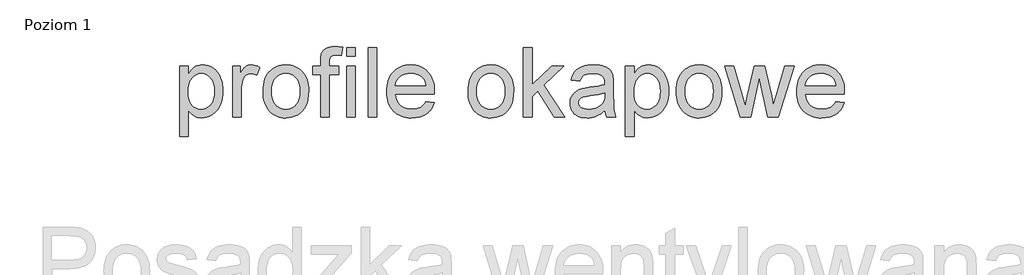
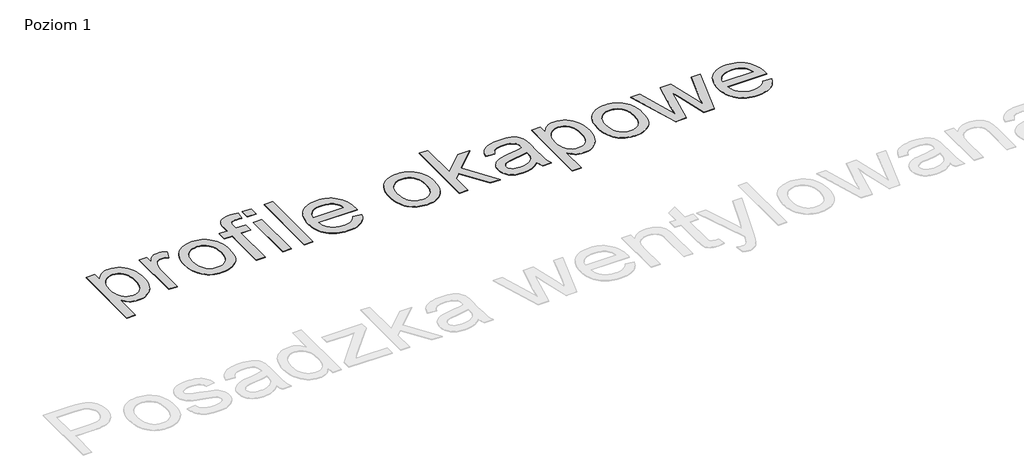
# One storey, part 3 of 4: 1 proxy.
"""IFC4 building model written with IfcOpenShell, lengths in millimetres."""

from ifc_helpers import new_model, si_unit, origin, origin_with_axes, place, context, project, spatial, polyline, outline, extrude, element, save

model = new_model("IFC4")

# Units and contexts
model_context = context("Model", 3, world=origin())
ifc_project = project(units=[si_unit("LENGTHUNIT", "METRE", prefix="MILLI")], contexts=[model_context])

# Site, building, storey
site = spatial("IfcSite", under=ifc_project)
building = spatial("IfcBuilding", under=site)
storey = spatial("IfcBuildingStorey", under=building, Name="Poziom 1", Elevation=0.0)

# Proxy
placement = place(None, origin())
element("IfcBuildingElementProxy", 1, Name="1500 mm Arial", ObjectType="1500 mm Arial", at=placement, inside=storey, context=model_context, shape_type="SweptSolid", body=[
    extrude(outline(polyline([(-54828.2671057, 16956.6028734), (-54828.2671057, 18486.9919733), (-54639.9115242, 18486.9919733), (-54639.9115242, 18302.3152117), (-54610.1130826, 18351.1170576), (-54578.475231, 18393.4119908), (-54544.9979694, 18429.2000111), (-54509.6812979, 18458.4811187), (-54471.5135409, 18481.2553134), (-54429.4830229, 18497.5225954), (-54383.589744, 18507.2829646), (-54333.8337042, 18510.536421), (-54268.1437754, 18505.9838813), (-54206.4545634, 18492.3262622), (-54148.766068, 18469.5635638), (-54095.0782893, 18437.6957859), (-54046.5638512, 18397.5506632), (-54004.3953775, 18349.9559301), (-53968.5728682, 18294.9115866), (-53939.0963234, 18232.4176326), (-53916.080706, 18164.6123824), (-53899.6409794, 18093.6341499), (-53889.7771434, 18019.4829353), (-53886.4891981, 17942.1587384), (-53890.2025069, 17859.4887563), (-53901.3424336, 17781.0724098), (-53919.9089781, 17706.9096988), (-53945.9021403, 17637.0006234), (-53978.9655346, 17573.1730973), (-54018.7427753, 17517.255034), (-54065.2338625, 17469.2464336), (-54118.438796, 17429.1472962), (-54175.7479131, 17397.5209409), (-54234.5515507, 17374.9306871), (-54294.849709, 17361.3765349), (-54356.6423879, 17356.8584841), (-54401.0986278, 17359.8820143), (-54443.2326125, 17368.9526047), (-54483.0443422, 17384.0702554), (-54520.5338167, 17405.2349665), (-54555.2411837, 17431.0211951), (-54586.7065906, 17460.0033985), (-54614.9300374, 17492.1815768), (-54639.9115242, 17527.5557299), (-54639.9115242, 16956.6028734), (-54828.2671057, 16956.6028734)]), holes=[polyline([(-54639.9115242, 17924.8682847), (-54634.8186578, 17834.0934024), (-54619.5400587, 17756.0104489), (-54608.0811094, 17721.7284454), (-54594.0757268, 17690.6194242), (-54577.5239111, 17662.6833852), (-54558.4256623, 17637.9203284), (-54515.5099283, 17597.3613385), (-54468.2485882, 17568.3906313), (-54416.641642, 17551.0082071), (-54360.6890898, 17545.2140656), (-54303.9317958, 17551.2151407), (-54277.1310176, 17558.7164845), (-54251.382152, 17569.2183658), (-54203.0401586, 17599.2237411), (-54158.9058155, 17641.2312664), (-54139.2040102, 17666.8852874), (-54122.1291123, 17695.83875), (-54107.6811217, 17728.0916543), (-54095.8600386, 17763.6440003), (-54086.6658628, 17802.4957879), (-54080.0985943, 17844.6470171), (-54074.8447796, 17938.8478005), (-54079.9721349, 18028.8409335), (-54095.3542008, 18106.7859313), (-54106.8907503, 18141.2403794), (-54120.9909774, 18172.6827937), (-54137.6548821, 18201.1131741), (-54156.8824645, 18226.5315207), (-54199.9016653, 18268.3780977), (-54246.9215828, 18298.2685098), (-54297.942217, 18316.202757), (-54352.9635679, 18322.1808395), (-54380.7932661, 18320.5914743), (-54407.8124742, 18315.8233787), (-54434.0211922, 18307.8765528), (-54459.4194203, 18296.7509965), (-54507.7844064, 18264.9636929), (-54552.9074323, 18220.4614678), (-54573.2990164, 18193.5917117), (-54590.9717225, 18163.8421295), (-54605.9255508, 18131.2127209), (-54618.1605012, 18095.7034862), (-54627.6765738, 18057.3144252), (-54634.4737684, 18016.0455379), (-54639.9115242, 17924.8682847)])]), origin_with_axes(), (0.0, 0.0, 1.0), 10.0),
    extrude(outline(polyline([(-53674.5891688, 17380.4029318), (-53674.5891688, 18486.9919733), (-53509.778035, 18486.9919733), (-53509.778035, 18323.2844854), (-53478.7379917, 18375.6156993), (-53448.8935648, 18418.1980402), (-53420.2447544, 18451.0315083), (-53392.7915605, 18474.1161035), (-53365.2923814, 18490.0499924), (-53336.5056153, 18501.4313416), (-53306.4312622, 18508.2601511), (-53275.0693221, 18510.536421), (-53228.3483087, 18506.9035863), (-53181.2594133, 18496.0050822), (-53133.8026359, 18477.8409087), (-53085.9779766, 18452.4110657), (-53148.8857977, 18283.55323), (-53181.9951773, 18300.4528091), (-53215.1045569, 18312.5239371), (-53248.2139364, 18319.7666139), (-53281.323316, 18322.1808395), (-53310.1905563, 18319.8585844), (-53337.563276, 18312.8918191), (-53363.4414751, 18301.2805436), (-53387.8251536, 18285.0247579), (-53409.7946065, 18264.6532925), (-53428.4301288, 18240.6949775), (-53443.7317206, 18213.1498131), (-53455.6993817, 18182.0177993), (-53469.0580967, 18130.6062905), (-53478.6000359, 18076.8035487), (-53484.3251995, 18020.6095739), (-53486.2335873, 17962.0243662), (-53486.2335873, 17380.4029318), (-53674.5891688, 17380.4029318)])), origin_with_axes(), (0.0, 0.0, 1.0), 10.0),
    extrude(outline(polyline([(-53015.3446335, 17933.6974525), (-53012.7982003, 18007.8314227), (-53005.1589007, 18077.0104823), (-52992.4267348, 18141.2346312), (-52974.6017025, 18200.5038695), (-52951.6838038, 18254.8181972), (-52923.6730388, 18304.1776143), (-52890.5694074, 18348.5821208), (-52852.3729096, 18388.0317166), (-52817.4126238, 18416.7437567), (-52780.5899353, 18441.6275248), (-52741.9048443, 18462.6830208), (-52701.3573506, 18479.9102449), (-52658.9474543, 18493.3091969), (-52614.6751555, 18502.879877), (-52568.540454, 18508.622285), (-52520.54335, 18510.536421), (-52467.3412905, 18508.2055437), (-52416.6281826, 18501.2129117), (-52368.4040264, 18489.558525), (-52322.6688218, 18473.2423837), (-52279.4225688, 18452.2644878), (-52238.6652675, 18426.6248371), (-52200.3969177, 18396.3234319), (-52164.6175196, 18361.3602719), (-52132.24103, 18322.2871803), (-52104.1814056, 18279.6559801), (-52080.4386465, 18233.4666711), (-52061.0127527, 18183.7192535), (-52045.9037242, 18130.4137272), (-52035.111561, 18073.5500923), (-52028.6362631, 18013.1283486), (-52026.4778304, 17949.1484963), (-52030.2946061, 17848.325837), (-52041.7449332, 17758.8615343), (-52060.8288117, 17680.7555882), (-52087.5462416, 17614.0079987), (-52121.5638299, 17556.3539923), (-52162.5481834, 17505.5287954), (-52210.4993022, 17461.532408), (-52265.4171863, 17424.3648302), (-52325.1635216, 17394.8308038), (-52387.599994, 17373.7350706), (-52452.7266034, 17361.0776307), (-52520.54335, 17356.8584841), (-52574.5846402, 17359.1807392), (-52625.9760305, 17366.1475045), (-52674.7175208, 17377.75878), (-52720.8091111, 17394.0145656), (-52764.2508014, 17414.9148615), (-52805.0425917, 17440.4596675), (-52843.184482, 17470.6489837), (-52878.6764723, 17505.4828102), (-52910.7080726, 17544.6852353), (-52938.4687928, 17587.9803476), (-52961.958633, 17635.3681471), (-52981.1775932, 17686.8486338), (-52996.1256733, 17742.4218077), (-53006.8028734, 17802.0876688), (-53013.2091935, 17865.8462171), (-53015.3446335, 17933.6974525)]), holes=[polyline([(-52826.989052, 17934.0653345), (-52821.5397999, 17842.7041403), (-52814.7282348, 17801.619194), (-52805.1920437, 17763.598015), (-52792.9312266, 17728.6406032), (-52777.9457835, 17696.7469587), (-52760.2357143, 17667.9170814), (-52739.8010191, 17642.1509714), (-52717.3027358, 17619.4313841), (-52693.4019025, 17599.7410751), (-52668.098519, 17583.0800444), (-52641.3925854, 17569.4482921), (-52613.2841017, 17558.845818), (-52583.7730679, 17551.2726222), (-52520.54335, 17545.2140656), (-52457.6355288, 17551.3071112), (-52428.2509544, 17558.9234181), (-52400.2459375, 17569.5862478), (-52373.6204781, 17583.2956003), (-52348.3745762, 17600.0514755), (-52324.5082318, 17619.8538736), (-52302.0214448, 17642.7027944), (-52281.5867496, 17668.672964), (-52263.8766805, 17697.8391084), (-52248.8912373, 17730.2012277), (-52236.6304202, 17765.7593217), (-52227.0942291, 17804.5133907), (-52220.282664, 17846.4634344), (-52214.833412, 17939.9514465), (-52220.317153, 18028.41557), (-52227.1718292, 18068.3623813), (-52236.7683759, 18105.452359), (-52249.1067932, 18139.6855031), (-52264.1870809, 18171.0618136), (-52282.0092391, 18199.5812905), (-52302.5732678, 18225.2439337), (-52349.0988439, 18267.65383), (-52374.3533681, 18284.3148607), (-52400.9357163, 18297.946613), (-52428.8458886, 18308.5490871), (-52458.083885, 18316.1222828), (-52520.54335, 18322.1808395), (-52583.7730679, 18316.1452755), (-52613.2841017, 18308.6008205), (-52641.3925854, 18298.0385835), (-52668.098519, 18284.4585646), (-52693.4019025, 18267.8607636), (-52717.3027358, 18248.2451807), (-52739.8010191, 18225.6118157), (-52760.2357143, 18199.931928), (-52777.9457835, 18171.1767767), (-52792.9312266, 18139.3463619), (-52805.1920437, 18104.4406836), (-52814.7282348, 18066.4597416), (-52821.5397999, 18025.4035362), (-52826.989052, 17934.0653345)])]), origin_with_axes(), (0.0, 0.0, 1.0), 10.0),
    extrude(outline(polyline([(-51767.4889058, 17380.4029318), (-51767.4889058, 18298.6363918), (-51932.3000397, 18298.6363918), (-51932.3000397, 18486.9919733), (-51767.4889058, 18486.9919733), (-51767.4889058, 18598.4602178), (-51762.5224989, 18690.7066281), (-51756.3144902, 18726.55213), (-51747.6232781, 18755.5458298), (-51731.2525293, 18788.494261), (-51709.7314326, 18818.1777394), (-51683.0599879, 18844.5962652), (-51651.2381954, 18867.7498383), (-51613.5762761, 18886.5807979), (-51569.3844514, 18900.0314834), (-51518.6627214, 18908.1018946), (-51461.4110859, 18910.7920317), (-51379.6493124, 18905.6416838), (-51289.6101941, 18890.19064), (-51317.2013437, 18713.6072823), (-51373.0274365, 18720.2291582), (-51425.7265323, 18722.4364502), (-51464.5955644, 18720.4820771), (-51497.3255656, 18714.6189578), (-51523.9165361, 18704.8470923), (-51544.3684758, 18691.1664806), (-51559.578097, 18672.15158), (-51570.4421122, 18646.3768477), (-51576.9605213, 18613.8422838), (-51579.1333243, 18574.5478881), (-51579.1333243, 18486.9919733), (-51367.2332951, 18486.9919733), (-51367.2332951, 18298.6363918), (-51579.1333243, 18298.6363918), (-51579.1333243, 17380.4029318), (-51767.4889058, 17380.4029318)])), origin_with_axes(), (0.0, 0.0, 1.0), 10.0),
    extrude(outline(polyline([(-51202.4221613, 17380.4029318), (-51202.4221613, 18486.9919733), (-51014.0665797, 18486.9919733), (-51014.0665797, 17380.4029318), (-51202.4221613, 17380.4029318)])), origin_with_axes(), (0.0, 0.0, 1.0), 10.0),
    extrude(outline(polyline([(-51202.4221613, 18698.8920025), (-51202.4221613, 18887.247584), (-51014.0665797, 18887.247584), (-51014.0665797, 18698.8920025), (-51202.4221613, 18698.8920025)])), origin_with_axes(), (0.0, 0.0, 1.0), 10.0),
    extrude(outline(polyline([(-50731.5332074, 17380.4029318), (-50731.5332074, 18887.247584), (-50543.1776259, 18887.247584), (-50543.1776259, 17380.4029318), (-50731.5332074, 17380.4029318)])), origin_with_axes(), (0.0, 0.0, 1.0), 10.0),
    extrude(outline(polyline([(-49485.8847718, 17710.0251995), (-49301.2080102, 17686.4807518), (-49329.5234275, 17612.5134781), (-49347.3973191, 17578.8235348), (-49367.7486661, 17547.3293871), (-49390.5774683, 17518.0310351), (-49415.8837259, 17490.9284787), (-49443.6674387, 17466.021718), (-49473.9286069, 17443.310753), (-49506.5177783, 17423.0485025), (-49541.285501, 17405.4878853), (-49578.2317748, 17390.6289016), (-49617.3565998, 17378.4715513), (-49702.1419034, 17362.2617509), (-49795.6414117, 17356.8584841), (-49855.6694066, 17359.1893614), (-49912.512923, 17366.1819934), (-49966.1719609, 17377.8363801), (-50016.6465203, 17394.1525214), (-50063.9366011, 17415.1304173), (-50108.0422035, 17440.7700679), (-50148.9633273, 17471.0714732), (-50186.6999726, 17506.0346332), (-50220.5853532, 17545.2054434), (-50249.9526831, 17588.1297996), (-50274.8019623, 17634.8077019), (-50295.1331906, 17685.2391501), (-50310.9463683, 17739.4241442), (-50322.2414952, 17797.3626844), (-50329.0185713, 17859.0547705), (-50331.2775967, 17924.5004027), (-50328.9955787, 17992.1734453), (-50322.1495247, 18055.9492381), (-50310.7394347, 18115.8277809), (-50294.7653087, 18171.8090739), (-50274.2271466, 18223.893117), (-50249.1249486, 18272.0799102), (-50219.4587146, 18316.3694536), (-50185.2284446, 18356.761747), (-50147.3595917, 18392.8026862), (-50106.7776091, 18424.0381669), (-50063.4824968, 18450.468189), (-50017.4742548, 18472.0927525), (-49968.7528831, 18488.9118575), (-49917.3183816, 18500.9255039), (-49863.1707504, 18508.1336917), (-49806.3099896, 18510.536421), (-49751.3087572, 18508.1394399), (-49698.8769507, 18500.9484965), (-49649.0145699, 18488.9635909), (-49601.721615, 18472.184723), (-49556.9980859, 18450.6118929), (-49514.8439826, 18424.2451005), (-49475.2593051, 18393.0843459), (-49438.2440534, 18357.129629), (-49404.7466733, 18316.8293061), (-49375.7156105, 18272.6317332), (-49351.1508651, 18224.5369105), (-49331.052437, 18172.5448379), (-49315.4203263, 18116.6555154), (-49304.254533, 18056.8689431), (-49297.5550569, 17993.1851208), (-49295.3218983, 17925.6040487), (-49296.4255442, 17874.8363333), (-50142.9220151, 17874.8363333), (-50132.0120147, 17799.6734432), (-50122.5131866, 17765.5926252), (-50110.3184733, 17733.8455587), (-50095.4278747, 17704.4322435), (-50077.8413909, 17677.3526798), (-50057.5590219, 17652.6068674), (-50034.5807676, 17630.1948065), (-49982.9278362, 17593.0157324), (-49925.2738297, 17566.4592509), (-49861.6187483, 17550.5253619), (-49791.9625917, 17545.2140656), (-49739.8613042, 17547.6742765), (-49691.7147481, 17555.054909), (-49647.5229234, 17567.3559632), (-49607.2858302, 17584.5774391), (-49571.0034684, 17607.1791892), (-49538.6758381, 17635.621066), (-49510.3029392, 17669.9030694), (-49485.8847718, 17710.0251995)]), holes=[polyline([(-50142.9220151, 18063.1919148), (-49483.6774798, 18063.1919148), (-49493.3573748, 18116.4888189), (-49509.153308, 18162.7039945), (-49531.0652793, 18201.8374418), (-49559.0932888, 18233.8891606), (-49583.8908345, 18254.5825228), (-49610.4588124, 18272.5167701), (-49638.7972223, 18287.6919024), (-49668.9060644, 18300.1079197), (-49734.4350447, 18316.6626095), (-49807.0457535, 18322.1808395), (-49873.276009, 18317.7777518), (-49934.0110271, 18304.5684889), (-49989.250808, 18282.5530508), (-50038.9953515, 18251.7314374), (-50080.7384616, 18213.5291914), (-50111.9739423, 18169.3718557), (-50132.7017935, 18119.2594302), (-50142.9220151, 18063.1919148)])]), origin_with_axes(), (0.0, 0.0, 1.0), 10.0),
    extrude(outline(polyline([(-48565.4440198, 17933.6974525), (-48562.8975866, 18007.8314227), (-48555.2582871, 18077.0104823), (-48542.5261212, 18141.2346312), (-48524.7010889, 18200.5038695), (-48501.7831902, 18254.8181972), (-48473.7724252, 18304.1776143), (-48440.6687937, 18348.5821208), (-48402.472296, 18388.0317166), (-48367.5120101, 18416.7437567), (-48330.6893217, 18441.6275248), (-48292.0042306, 18462.6830208), (-48251.4567369, 18479.9102449), (-48209.0468407, 18493.3091969), (-48164.7745418, 18502.879877), (-48118.6398404, 18508.622285), (-48070.6427363, 18510.536421), (-48017.4406768, 18508.2055437), (-47966.727569, 18501.2129117), (-47918.5034128, 18489.558525), (-47872.7682082, 18473.2423837), (-47829.5219552, 18452.2644878), (-47788.7646538, 18426.6248371), (-47750.4963041, 18396.3234319), (-47714.716906, 18361.3602719), (-47682.3404163, 18322.2871803), (-47654.280792, 18279.6559801), (-47630.5380329, 18233.4666711), (-47611.1121391, 18183.7192535), (-47596.0031106, 18130.4137272), (-47585.2109474, 18073.5500923), (-47578.7356494, 18013.1283486), (-47576.5772168, 17949.1484963), (-47580.3939925, 17848.325837), (-47591.8443196, 17758.8615343), (-47610.9281981, 17680.7555882), (-47637.645628, 17614.0079987), (-47671.6632162, 17556.3539923), (-47712.6475698, 17505.5287954), (-47760.5986886, 17461.532408), (-47815.5165727, 17424.3648302), (-47875.2629079, 17394.8308038), (-47937.6993803, 17373.7350706), (-48002.8259898, 17361.0776307), (-48070.6427363, 17356.8584841), (-48124.6840266, 17359.1807392), (-48176.0754169, 17366.1475045), (-48224.8169071, 17377.75878), (-48270.9084974, 17394.0145656), (-48314.3501877, 17414.9148615), (-48355.141978, 17440.4596675), (-48393.2838683, 17470.6489837), (-48428.7758586, 17505.4828102), (-48460.8074589, 17544.6852353), (-48488.5681791, 17587.9803476), (-48512.0580194, 17635.3681471), (-48531.2769795, 17686.8486338), (-48546.2250597, 17742.4218077), (-48556.9022597, 17802.0876688), (-48563.3085798, 17865.8462171), (-48565.4440198, 17933.6974525)]), holes=[polyline([(-48377.0884383, 17934.0653345), (-48371.6391862, 17842.7041403), (-48364.8276212, 17801.619194), (-48355.2914301, 17763.598015), (-48343.030613, 17728.6406032), (-48328.0451698, 17696.7469587), (-48310.3351006, 17667.9170814), (-48289.9004054, 17642.1509714), (-48267.4021222, 17619.4313841), (-48243.5012888, 17599.7410751), (-48218.1979053, 17583.0800444), (-48191.4919717, 17569.4482921), (-48163.383488, 17558.845818), (-48133.8724542, 17551.2726222), (-48070.6427363, 17545.2140656), (-48007.7349151, 17551.3071112), (-47978.3503408, 17558.9234181), (-47950.3453239, 17569.5862478), (-47923.7198645, 17583.2956003), (-47898.4739626, 17600.0514755), (-47874.6076181, 17619.8538736), (-47852.1208312, 17642.7027944), (-47831.686136, 17668.672964), (-47813.9760668, 17697.8391084), (-47798.9906237, 17730.2012277), (-47786.7298065, 17765.7593217), (-47777.1936154, 17804.5133907), (-47770.3820504, 17846.4634344), (-47764.9327983, 17939.9514465), (-47770.4165393, 18028.41557), (-47777.2712155, 18068.3623813), (-47786.8677623, 18105.452359), (-47799.2061795, 18139.6855031), (-47814.2864672, 18171.0618136), (-47832.1086255, 18199.5812905), (-47852.6726542, 18225.2439337), (-47899.1982302, 18267.65383), (-47924.4527544, 18284.3148607), (-47951.0351026, 18297.946613), (-47978.9452749, 18308.5490871), (-48008.1832713, 18316.1222828), (-48070.6427363, 18322.1808395), (-48133.8724542, 18316.1452755), (-48163.383488, 18308.6008205), (-48191.4919717, 18298.0385835), (-48218.1979053, 18284.4585646), (-48243.5012888, 18267.8607636), (-48267.4021222, 18248.2451807), (-48289.9004054, 18225.6118157), (-48310.3351006, 18199.931928), (-48328.0451698, 18171.1767767), (-48343.030613, 18139.3463619), (-48355.2914301, 18104.4406836), (-48364.8276212, 18066.4597416), (-48371.6391862, 18025.4035362), (-48377.0884383, 17934.0653345)])]), origin_with_axes(), (0.0, 0.0, 1.0), 10.0),
    extrude(outline(polyline([(-47364.6771876, 17380.4029318), (-47364.6771876, 18887.247584), (-47176.321606, 18887.247584), (-47176.321606, 18077.5393127), (-46753.9930756, 18486.9919733), (-46493.532623, 18486.9919733), (-46921.0115014, 18072.3889647), (-46469.9881753, 17380.4029318), (-46689.9816084, 17380.4029318), (-47056.0241936, 17941.4229744), (-47176.321606, 17824.804382), (-47176.321606, 17380.4029318), (-47364.6771876, 17380.4029318)])), origin_with_axes(), (0.0, 0.0, 1.0), 10.0),
    extrude(outline(polyline([(-45598.8436107, 17521.6696179), (-45643.5067842, 17479.7540631), (-45688.8367438, 17444.5063695), (-45734.8334895, 17415.926537), (-45781.4970213, 17394.0145656), (-45829.3561696, 17377.75878), (-45878.9397648, 17366.1475045), (-45930.2478068, 17359.1807392), (-45983.2802957, 17356.8584841), (-46067.1458943, 17362.4456919), (-46105.2073104, 17369.4297017), (-46140.6878044, 17379.2073153), (-46173.5873762, 17391.7785329), (-46203.906026, 17407.1433543), (-46231.6437536, 17425.3017797), (-46256.8005591, 17446.2538089), (-46279.175257, 17469.3786412), (-46298.5666619, 17494.0554757), (-46314.9747737, 17520.2843123), (-46328.3995924, 17548.0651511), (-46338.8411181, 17577.3979921), (-46346.2993507, 17608.2828352), (-46352.2659368, 17674.7085279), (-46350.0126596, 17714.646717), (-46343.252828, 17752.7914814), (-46331.9864419, 17789.1428211), (-46316.2135013, 17823.700736), (-46296.7732371, 17855.7064696), (-46274.5048801, 17884.4012652), (-46249.4084303, 17909.7851229), (-46221.4838876, 17931.8580426), (-46159.1738746, 17967.7265371), (-46089.5981923, 17993.6622178), (-46021.8159347, 18008.1015861), (-45926.6264684, 18021.9891314), (-45823.0217015, 18036.2445587), (-45734.0402439, 18051.787573), (-45659.6820957, 18068.6181743), (-45599.9472567, 18086.7363625), (-45598.8436107, 18128.67491), (-45602.0855708, 18174.3382626), (-45611.811451, 18212.7359459), (-45628.0212515, 18243.8679597), (-45650.714972, 18267.7343042), (-45689.9403898, 18291.5546634), (-45737.7190639, 18308.5692056), (-45794.0509944, 18318.777931), (-45858.9361813, 18322.1808395), (-45919.2688285, 18319.9160659), (-45971.1401898, 18313.1217453), (-46014.5502653, 18301.7978777), (-46049.4990548, 18285.9444629), (-46078.2168431, 18264.3198994), (-46102.9339146, 18235.6825853), (-46123.6502695, 18200.0325207), (-46140.3659076, 18157.3697056), (-46328.7214891, 18180.9141533), (-46314.3855876, 18235.1767476), (-46296.0259768, 18283.921112), (-46273.6426567, 18327.1472464), (-46247.2356272, 18364.8551509), (-46215.6667535, 18397.8035821), (-46177.7979006, 18426.7512966), (-46133.6290686, 18451.6982944), (-46083.1602574, 18472.6445755), (-46027.4146388, 18489.2222579), (-45967.4153846, 18501.0634596), (-45903.1624949, 18508.1681806), (-45834.6559696, 18510.536421), (-45767.6899502, 18508.4440921), (-45707.322814, 18502.1671056), (-45653.5545612, 18491.7054614), (-45606.3851916, 18477.0591594), (-45565.4238307, 18459.2513716), (-45530.2796039, 18439.3052697), (-45500.9525111, 18417.2208536), (-45477.4425523, 18392.9981235), (-45458.3816664, 18366.0392711), (-45442.4017923, 18335.746488), (-45429.5029298, 18302.1197744), (-45419.6850791, 18265.1591302), (-45412.7872917, 18200.0440171), (-45410.4880292, 18100.3479964), (-45410.4880292, 17866.0071654), (-45408.0967962, 17661.8786434), (-45400.9230973, 17538.7761307), (-45386.7596405, 17457.888077), (-45363.3991338, 17380.4029318), (-45551.7547153, 17380.4029318), (-45568.4933461, 17411.8568424), (-45581.9210389, 17445.8859269), (-45592.0377938, 17482.4901855), (-45598.8436107, 17521.6696179)]), holes=[polyline([(-45598.8436107, 17898.380781), (-45655.7733495, 17882.0790101), (-45725.3950171, 17867.0188409), (-45902.7141387, 17840.6233078), (-46000.4327937, 17826.1839395), (-46064.7661576, 17810.0891022), (-46106.9346313, 17789.2117989), (-46123.9146846, 17775.8070987), (-46138.1586156, 17760.4250328), (-46149.4250017, 17743.6174242), (-46157.4724204, 17725.9360958), (-46162.3008716, 17707.3810476), (-46163.9103553, 17687.9522798), (-46160.40398, 17658.6826685), (-46149.8848542, 17631.942246), (-46132.3529779, 17607.7310122), (-46107.808351, 17586.0489671), (-46076.4808999, 17568.1836977), (-46038.6005507, 17555.422791), (-45994.1673035, 17547.766247), (-45943.1811582, 17545.2140656), (-45891.1258559, 17548.0306622), (-45842.0136095, 17556.4804517), (-45795.8444191, 17570.5634344), (-45752.6182847, 17590.27961), (-45713.6227932, 17613.9965024), (-45680.1455317, 17640.0816351), (-45652.1865, 17668.5350082), (-45629.7456983, 17699.3566216), (-45616.7088801, 17726.9477713), (-45607.3968671, 17760.4250328), (-45601.8096593, 17799.7884063), (-45599.9472567, 17845.0378917), (-45598.8436107, 17898.380781)])]), origin_with_axes(), (0.0, 0.0, 1.0), 10.0),
    extrude(outline(polyline([(-45151.4991046, 16956.6028734), (-45151.4991046, 18486.9919733), (-44963.1435231, 18486.9919733), (-44963.1435231, 18302.3152117), (-44933.3450814, 18351.1170576), (-44901.7072299, 18393.4119908), (-44868.2299683, 18429.2000111), (-44832.9132968, 18458.4811187), (-44794.7455398, 18481.2553134), (-44752.7150218, 18497.5225954), (-44706.8217429, 18507.2829646), (-44657.0657031, 18510.536421), (-44591.3757743, 18505.9838813), (-44529.6865622, 18492.3262622), (-44471.9980669, 18469.5635638), (-44418.3102882, 18437.6957859), (-44369.7958501, 18397.5506632), (-44327.6273764, 18349.9559301), (-44291.8048671, 18294.9115866), (-44262.3283222, 18232.4176326), (-44239.3127049, 18164.6123824), (-44222.8729783, 18093.6341499), (-44213.0091423, 18019.4829353), (-44209.7211969, 17942.1587384), (-44213.4345058, 17859.4887563), (-44224.5744325, 17781.0724098), (-44243.1409769, 17706.9096988), (-44269.1341392, 17637.0006234), (-44302.1975335, 17573.1730973), (-44341.9747742, 17517.255034), (-44388.4658613, 17469.2464336), (-44441.6707949, 17429.1472962), (-44498.979912, 17397.5209409), (-44557.7835496, 17374.9306871), (-44618.0817079, 17361.3765349), (-44679.8743868, 17356.8584841), (-44724.3306266, 17359.8820143), (-44766.4646114, 17368.9526047), (-44806.276341, 17384.0702554), (-44843.7658156, 17405.2349665), (-44878.4731826, 17431.0211951), (-44909.9385895, 17460.0033985), (-44938.1620363, 17492.1815768), (-44963.1435231, 17527.5557299), (-44963.1435231, 16956.6028734), (-45151.4991046, 16956.6028734)]), holes=[polyline([(-44963.1435231, 17924.8682847), (-44958.0506567, 17834.0934024), (-44942.7720576, 17756.0104489), (-44931.3131082, 17721.7284454), (-44917.3077257, 17690.6194242), (-44900.75591, 17662.6833852), (-44881.6576611, 17637.9203284), (-44838.7419271, 17597.3613385), (-44791.4805871, 17568.3906313), (-44739.8736409, 17551.0082071), (-44683.9210887, 17545.2140656), (-44627.1637946, 17551.2151407), (-44600.3630165, 17558.7164845), (-44574.6141509, 17569.2183658), (-44526.2721575, 17599.2237411), (-44482.1378144, 17641.2312664), (-44462.4360091, 17666.8852874), (-44445.3611112, 17695.83875), (-44430.9131206, 17728.0916543), (-44419.0920374, 17763.6440003), (-44409.8978616, 17802.4957879), (-44403.3305932, 17844.6470171), (-44398.0767785, 17938.8478005), (-44403.2041338, 18028.8409335), (-44418.5861997, 18106.7859313), (-44430.1227491, 18141.2403794), (-44444.2229762, 18172.6827937), (-44460.886881, 18201.1131741), (-44480.1144634, 18226.5315207), (-44523.1336642, 18268.3780977), (-44570.1535817, 18298.2685098), (-44621.1742159, 18316.202757), (-44676.1955668, 18322.1808395), (-44704.0252649, 18320.5914743), (-44731.044473, 18315.8233787), (-44757.2531911, 18307.8765528), (-44782.6514192, 18296.7509965), (-44831.0164052, 18264.9636929), (-44876.1394312, 18220.4614678), (-44896.5310152, 18193.5917117), (-44914.2037214, 18163.8421295), (-44929.1575497, 18131.2127209), (-44941.3925001, 18095.7034862), (-44950.9085726, 18057.3144252), (-44957.7057673, 18016.0455379), (-44963.1435231, 17924.8682847)])]), origin_with_axes(), (0.0, 0.0, 1.0), 10.0),
    extrude(outline(polyline([(-44044.9100631, 17933.6974525), (-44042.3636299, 18007.8314227), (-44034.7243304, 18077.0104823), (-44021.9921644, 18141.2346312), (-44004.1671321, 18200.5038695), (-43981.2492335, 18254.8181972), (-43953.2384684, 18304.1776143), (-43920.134837, 18348.5821208), (-43881.9383392, 18388.0317166), (-43846.9780534, 18416.7437567), (-43810.1553649, 18441.6275248), (-43771.4702739, 18462.6830208), (-43730.9227802, 18479.9102449), (-43688.512884, 18493.3091969), (-43644.2405851, 18502.879877), (-43598.1058836, 18508.622285), (-43550.1087796, 18510.536421), (-43496.9067201, 18508.2055437), (-43446.1936123, 18501.2129117), (-43397.969456, 18489.558525), (-43352.2342514, 18473.2423837), (-43308.9879984, 18452.2644878), (-43268.2306971, 18426.6248371), (-43229.9623474, 18396.3234319), (-43194.1829492, 18361.3602719), (-43161.8064596, 18322.2871803), (-43133.7468352, 18279.6559801), (-43110.0040761, 18233.4666711), (-43090.5781824, 18183.7192535), (-43075.4691538, 18130.4137272), (-43064.6769906, 18073.5500923), (-43058.2016927, 18013.1283486), (-43056.0432601, 17949.1484963), (-43059.8600358, 17848.325837), (-43071.3103629, 17758.8615343), (-43090.3942414, 17680.7555882), (-43117.1116713, 17614.0079987), (-43151.1292595, 17556.3539923), (-43192.113613, 17505.5287954), (-43240.0647318, 17461.532408), (-43294.9826159, 17424.3648302), (-43354.7289512, 17394.8308038), (-43417.1654236, 17373.7350706), (-43482.292033, 17361.0776307), (-43550.1087796, 17356.8584841), (-43604.1500699, 17359.1807392), (-43655.5414601, 17366.1475045), (-43704.2829504, 17377.75878), (-43750.3745407, 17394.0145656), (-43793.816231, 17414.9148615), (-43834.6080213, 17440.4596675), (-43872.7499116, 17470.6489837), (-43908.2419019, 17505.4828102), (-43940.2735022, 17544.6852353), (-43968.0342224, 17587.9803476), (-43991.5240626, 17635.3681471), (-44010.7430228, 17686.8486338), (-44025.6911029, 17742.4218077), (-44036.368303, 17802.0876688), (-44042.7746231, 17865.8462171), (-44044.9100631, 17933.6974525)]), holes=[polyline([(-43856.5544816, 17934.0653345), (-43851.1052295, 17842.7041403), (-43844.2936644, 17801.619194), (-43834.7574733, 17763.598015), (-43822.4966562, 17728.6406032), (-43807.5112131, 17696.7469587), (-43789.8011439, 17667.9170814), (-43769.3664487, 17642.1509714), (-43746.8681654, 17619.4313841), (-43722.9673321, 17599.7410751), (-43697.6639486, 17583.0800444), (-43670.958015, 17569.4482921), (-43642.8495313, 17558.845818), (-43613.3384975, 17551.2726222), (-43550.1087796, 17545.2140656), (-43487.2009584, 17551.3071112), (-43457.816384, 17558.9234181), (-43429.8113672, 17569.5862478), (-43403.1859078, 17583.2956003), (-43377.9400058, 17600.0514755), (-43354.0736614, 17619.8538736), (-43331.5868744, 17642.7027944), (-43311.1521792, 17668.672964), (-43293.4421101, 17697.8391084), (-43278.4566669, 17730.2012277), (-43266.1958498, 17765.7593217), (-43256.6596587, 17804.5133907), (-43249.8480936, 17846.4634344), (-43244.3988416, 17939.9514465), (-43249.8825826, 18028.41557), (-43256.7372588, 18068.3623813), (-43266.3338055, 18105.452359), (-43278.6722228, 18139.6855031), (-43293.7525105, 18171.0618136), (-43311.5746687, 18199.5812905), (-43332.1386974, 18225.2439337), (-43378.6642735, 18267.65383), (-43403.9187977, 18284.3148607), (-43430.5011459, 18297.946613), (-43458.4113182, 18308.5490871), (-43487.6493146, 18316.1222828), (-43550.1087796, 18322.1808395), (-43613.3384975, 18316.1452755), (-43642.8495313, 18308.6008205), (-43670.958015, 18298.0385835), (-43697.6639486, 18284.4585646), (-43722.9673321, 18267.8607636), (-43746.8681654, 18248.2451807), (-43769.3664487, 18225.6118157), (-43789.8011439, 18199.931928), (-43807.5112131, 18171.1767767), (-43822.4966562, 18139.3463619), (-43834.7574733, 18104.4406836), (-43844.2936644, 18066.4597416), (-43851.1052295, 18025.4035362), (-43856.5544816, 17934.0653345)])]), origin_with_axes(), (0.0, 0.0, 1.0), 10.0),
    extrude(outline(polyline([(-42660.5701152, 17380.4029318), (-42997.1821408, 18486.9919733), (-42801.4689194, 18486.9919733), (-42610.5381639, 17841.3590718), (-42553.5164546, 17610.6970608), (-42506.7954413, 17832.8977859), (-42354.8601772, 18486.9919733), (-42130.4521602, 18486.9919733), (-41979.2526602, 17834.7371958), (-41937.6819947, 17633.5057445), (-41878.0851115, 17845.7736557), (-41686.786474, 18486.9919733), (-41490.3374886, 18486.9919733), (-41829.5246881, 17380.4029318), (-42057.2436432, 17380.4029318), (-42201.8212673, 18029.3467713), (-42243.7598147, 18231.6818686), (-42430.2759863, 17380.4029318), (-42660.5701152, 17380.4029318)])), origin_with_axes(), (0.0, 0.0, 1.0), 10.0),
    extrude(outline(polyline([(-40586.0835444, 17710.0251995), (-40401.4067829, 17686.4807518), (-40429.7222002, 17612.5134781), (-40447.5960918, 17578.8235348), (-40467.9474387, 17547.3293871), (-40490.776241, 17518.0310351), (-40516.0824985, 17490.9284787), (-40543.8662114, 17466.021718), (-40574.1273796, 17443.310753), (-40606.716551, 17423.0485025), (-40641.4842737, 17405.4878853), (-40678.4305475, 17390.6289016), (-40717.5553725, 17378.4715513), (-40802.340676, 17362.2617509), (-40895.8401844, 17356.8584841), (-40955.8681793, 17359.1893614), (-41012.7116957, 17366.1819934), (-41066.3707336, 17377.8363801), (-41116.845293, 17394.1525214), (-41164.1353738, 17415.1304173), (-41208.2409762, 17440.7700679), (-41249.1621, 17471.0714732), (-41286.8987453, 17506.0346332), (-41320.7841259, 17545.2054434), (-41350.1514558, 17588.1297996), (-41375.0007349, 17634.8077019), (-41395.3319633, 17685.2391501), (-41411.145141, 17739.4241442), (-41422.4402678, 17797.3626844), (-41429.217344, 17859.0547705), (-41431.4763694, 17924.5004027), (-41429.1943514, 17992.1734453), (-41422.3482974, 18055.9492381), (-41410.9382073, 18115.8277809), (-41394.9640813, 18171.8090739), (-41374.4259193, 18223.893117), (-41349.3237213, 18272.0799102), (-41319.6574873, 18316.3694536), (-41285.4272173, 18356.761747), (-41247.5583644, 18392.8026862), (-41206.9763818, 18424.0381669), (-41163.6812695, 18450.468189), (-41117.6730275, 18472.0927525), (-41068.9516557, 18488.9118575), (-41017.5171543, 18500.9255039), (-40963.3695231, 18508.1336917), (-40906.5087622, 18510.536421), (-40851.5075299, 18508.1394399), (-40799.0757233, 18500.9484965), (-40749.2133426, 18488.9635909), (-40701.9203877, 18472.184723), (-40657.1968586, 18450.6118929), (-40615.0427552, 18424.2451005), (-40575.4580778, 18393.0843459), (-40538.4428261, 18357.129629), (-40504.945446, 18316.8293061), (-40475.9143832, 18272.6317332), (-40451.3496378, 18224.5369105), (-40431.2512097, 18172.5448379), (-40415.619099, 18116.6555154), (-40404.4533056, 18056.8689431), (-40397.7538296, 17993.1851208), (-40395.5206709, 17925.6040487), (-40396.6243169, 17874.8363333), (-41243.1207878, 17874.8363333), (-41232.2107874, 17799.6734432), (-41222.7119593, 17765.5926252), (-41210.517246, 17733.8455587), (-41195.6266474, 17704.4322435), (-41178.0401636, 17677.3526798), (-41157.7577946, 17652.6068674), (-41134.7795402, 17630.1948065), (-41083.1266089, 17593.0157324), (-41025.4726024, 17566.4592509), (-40961.817521, 17550.5253619), (-40892.1613644, 17545.2140656), (-40840.0600769, 17547.6742765), (-40791.9135207, 17555.054909), (-40747.7216961, 17567.3559632), (-40707.4846028, 17584.5774391), (-40671.2022411, 17607.1791892), (-40638.8746107, 17635.621066), (-40610.5017119, 17669.9030694), (-40586.0835444, 17710.0251995)]), holes=[polyline([(-41243.1207878, 18063.1919148), (-40583.8762525, 18063.1919148), (-40593.5561475, 18116.4888189), (-40609.3520806, 18162.7039945), (-40631.264052, 18201.8374418), (-40659.2920615, 18233.8891606), (-40684.0896072, 18254.5825228), (-40710.6575851, 18272.5167701), (-40738.995995, 18287.6919024), (-40769.104837, 18300.1079197), (-40834.6338174, 18316.6626095), (-40907.2445262, 18322.1808395), (-40973.4747817, 18317.7777518), (-41034.2097998, 18304.5684889), (-41089.4495807, 18282.5530508), (-41139.1941242, 18251.7314374), (-41180.9372343, 18213.5291914), (-41212.172715, 18169.3718557), (-41232.9005661, 18119.2594302), (-41243.1207878, 18063.1919148)])]), origin_with_axes(), (0.0, 0.0, 1.0), 10.0),
])

save(model, "model.ifc")
